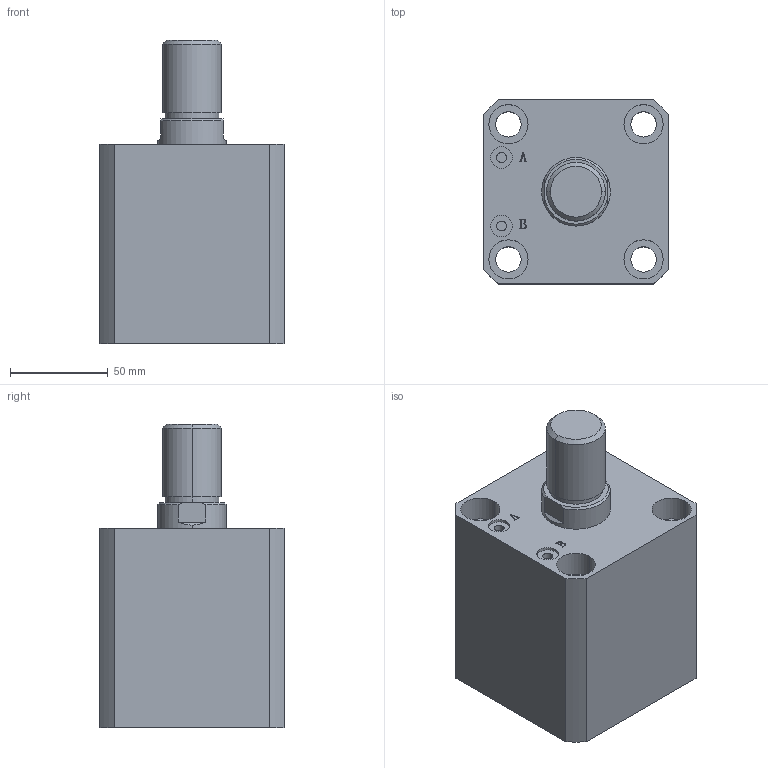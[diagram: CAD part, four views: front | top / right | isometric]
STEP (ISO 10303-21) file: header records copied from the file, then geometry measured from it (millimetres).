
FILE_DESCRIPTION (( 'STEP AP203' ), '1' );
FILE_NAME ('HTB-SDMA63-35W.STEP', '2019-10-08T01:03:44', ( '微软用户' ), ( '微软中国' ), 'SwSTEP 2.0', 'SolidWorks 2012', '' );
FILE_SCHEMA (( 'CONFIG_CONTROL_DESIGN' ));
Length unit declared in the file: millimetre
Products named in the file (3): HTB-SDMA63-35W; HTB-SDMA63-35W活塞杆; HTB-SDMA63-35掛极
Assembly tree (2 placements, depth 2):
  HTB-SDMA63-35W
    HTB-SDMA63-35掛极
    HTB-SDMA63-35W活塞杆
Bounding box: 94 x 94 x 155 mm (x, y, z)
Volume: 781322.4 mm3; surface area: 113396.8 mm2
Topology: 2 solids, 2 shells, 141 faces, 337 edges, 222 vertices
Faces by surface type: plane 67, cylinder 48, bspline 16, torus 6, cone 4
Entity records: 5176 total; most frequent: CARTESIAN_POINT 1593, ORIENTED_EDGE 674, DIRECTION 669, EDGE_CURVE 337, AXIS2_PLACEMENT_3D 242, VERTEX_POINT 222, LINE 185, VECTOR 185
